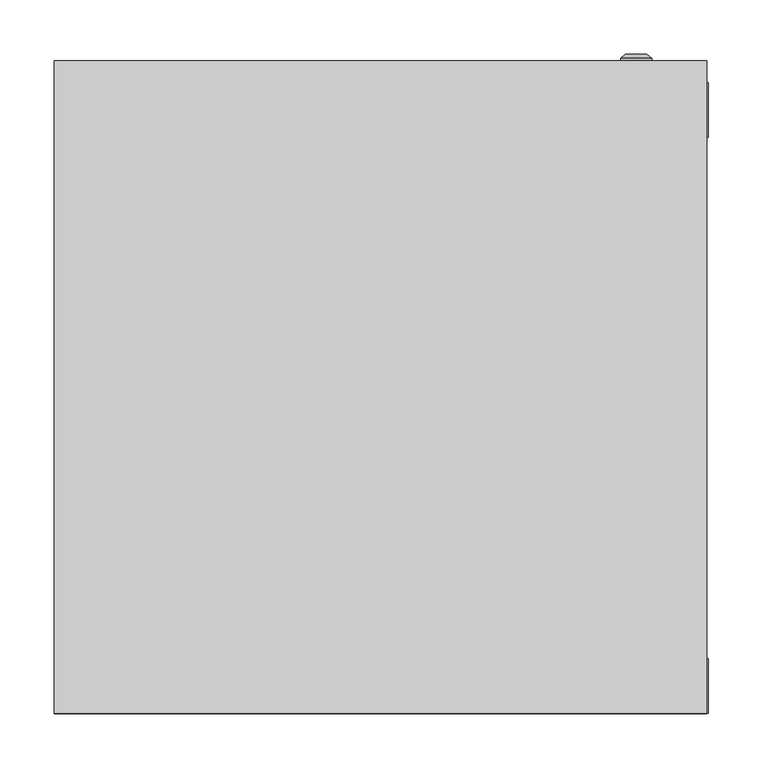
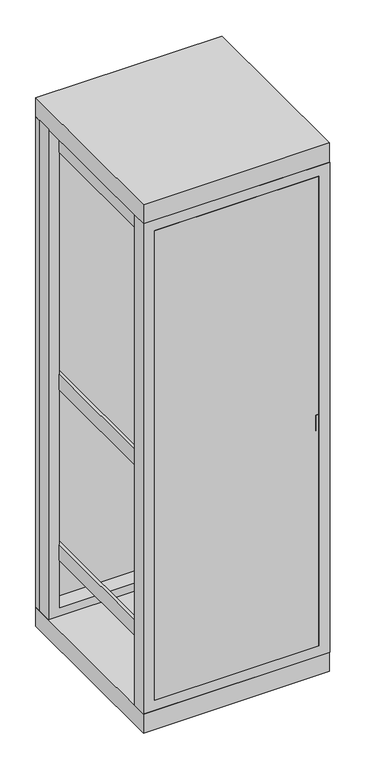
"""IFC4 building model written with IfcOpenShell, lengths in millimetres: proxy geometry, ВРУ-1 : ВРУ-1_1800х600х600."""

from ifc_helpers import new_model, si_unit, frame, origin, origin_with_axes, place, context, project, spatial, polyline, circle_curve, outline, extrude, source, transform, mapped, element, save
from ifc_brep_helpers import plane_surface, cylinder_surface, revolved_surface, advanced_brep


def electrical_equipment_cb070b25(model_context):
    return source(origin(), model_context, "Body", "SolidModel", [
        extrude(outline(polyline([(265.8707865, 0.0), (-263.3426966, 0.0), (-263.3426966, 10.0), (265.8707865, 10.0), (265.8707865, 0.0)])), frame((0.0, 0.0, 99.1378449), z_axis=(0.0, 0.0, 1.0), x_axis=(1.0, 0.0, 0.0)), (0.0, 0.0, 1.0), 1599.6160511),
        extrude(outline(polyline([(-255.8707865, 125.9831461), (-215.8707865, 125.9831461), (-215.8707865, 93.1179775), (-218.8707865, 93.1179775), (-218.8707865, 122.9831461), (-252.8707865, 122.9831461), (-252.8707865, 93.1179775), (-255.8707865, 93.1179775), (-255.8707865, 125.9831461)])), frame((0.0, 0.0, 189.6067416), z_axis=(0.0, 0.0, 1.0), x_axis=(1.0, 0.0, 0.0)), (0.0, 0.0, 1.0), 1545.3932584),
        extrude(outline(polyline([(215.8707865, 125.9831461), (255.8707865, 125.9831461), (255.8707865, 93.1179775), (252.8707865, 93.1179775), (252.8707865, 122.9831461), (218.8707865, 122.9831461), (218.8707865, 93.1179775), (215.8707865, 93.1179775), (215.8707865, 125.9831461)])), frame((0.0, 0.0, 189.6067416), z_axis=(0.0, 0.0, 1.0), x_axis=(1.0, 0.0, 0.0)), (0.0, 0.0, 1.0), 1545.3932584),
        extrude(outline(polyline([(-255.8707865, 10.0), (-265.8707865, 10.0), (-265.8707865, 580.0), (-255.8707865, 580.0), (-255.8707865, 10.0)])), frame((0.0, 0.0, 1645.5966059), z_axis=(0.0, 0.0, 1.0), x_axis=(1.0, 0.0, 0.0)), (0.0, 0.0, 1.0), 53.0898876),
        extrude(outline(polyline([(265.8707865, 10.0), (255.8707865, 10.0), (255.8707865, 580.0), (265.8707865, 580.0), (265.8707865, 10.0)])), frame((0.0, 0.0, 1645.5966059), z_axis=(0.0, 0.0, 1.0), x_axis=(1.0, 0.0, 0.0)), (0.0, 0.0, 1.0), 53.0898876),
        extrude(outline(polyline([(-255.8707865, 10.0), (-265.8707865, 10.0), (-265.8707865, 580.0), (-255.8707865, 580.0), (-255.8707865, 10.0)])), frame((0.0, 0.0, 255.5966059), z_axis=(0.0, 0.0, 1.0), x_axis=(1.0, 0.0, 0.0)), (0.0, 0.0, 1.0), 53.0898876),
        extrude(outline(polyline([(265.8707865, 10.0), (255.8707865, 10.0), (255.8707865, 580.0), (265.8707865, 580.0), (265.8707865, 10.0)])), frame((0.0, 0.0, 255.5966059), z_axis=(0.0, 0.0, 1.0), x_axis=(1.0, 0.0, 0.0)), (0.0, 0.0, 1.0), 53.0898876),
        extrude(outline(polyline([(-255.8707865, 10.0), (-265.8707865, 10.0), (-265.8707865, 580.0), (-255.8707865, 580.0), (-255.8707865, 10.0)])), frame((0.0, 0.0, 835.5966059), z_axis=(0.0, 0.0, 1.0), x_axis=(1.0, 0.0, 0.0)), (0.0, 0.0, 1.0), 53.0898876),
        extrude(outline(polyline([(265.8707865, 0.0), (255.8707865, 0.0), (255.8707865, 580.0), (265.8707865, 580.0), (265.8707865, 0.0)])), frame((0.0, 0.0, 835.5966059), z_axis=(0.0, 0.0, 1.0), x_axis=(1.0, 0.0, 0.0)), (0.0, 0.0, 1.0), 53.0898876),
        extrude(outline(polyline([(1734.1471543, -300.0), (65.0187804, -300.0), (65.0187804, 301.2640449), (1734.1471543, 301.2640449), (1734.1471543, -300.0)]), holes=[polyline([(99.1378449, 265.8707865), (99.1378449, -263.3426966), (1698.7538959, -263.3426966), (1698.7538959, 265.8707865), (99.1378449, 265.8707865)])]), frame((0.0, 0.0, 0.0), z_axis=(0.0, 1.0, 0.0), x_axis=(0.0, 0.0, 1.0)), (0.0, 0.0, 1.0), 50.0),
        extrude(outline(polyline([(1735.0, -300.0), (65.0187804, -300.0), (65.0187804, 301.2640449), (1735.0, 301.2640449), (1735.0, -300.0)]), holes=[polyline([(93.3701084, 265.8707865), (93.3701084, -263.3426966), (1692.9861595, -263.3426966), (1692.9861595, 265.8707865), (93.3701084, 265.8707865)])]), frame((0.0, 530.0, 0.0), z_axis=(0.0, 1.0, 0.0), x_axis=(0.0, 0.0, 1.0)), (0.0, 0.0, 1.0), 50.0),
        extrude(outline(polyline([(300.0067809, 600.0), (300.0067809, 0.0), (-300.0, 0.0), (-300.0, 600.0), (300.0067809, 600.0)])), frame((0.0, 0.0, 1735.0), z_axis=(0.0, 0.0, 1.0), x_axis=(1.0, 0.0, 0.0)), (0.0, 0.0, 1.0), 65.0),
        advanced_brep(
        [(220.669873, 600.0, 415.0), (249.330127, 600.0, 415.0), (235.0, 600.0, 415.0), (220.669873, 602.366592, 415.0), (249.330127, 602.366592, 415.0), (225.0, 606.0, 415.0), (245.0, 606.0, 415.0), (233.1080471, 606.0, 415.0), (236.8919529, 606.0, 415.0), (233.1080471, 604.9822294, 415.0), (236.8919529, 604.9822294, 415.0), (235.0, 604.9822294, 415.0)],
        [
            (0, 1, circle_curve(frame((235.0, 600.0, 415.0), z_axis=(0.0, -1.0, 0.0), x_axis=(1.0, 0.0, 0.0)), 14.330127)),
            (1, 2),
            (2, 0),
            (1, 0, circle_curve(frame((235.0, 600.0, 415.0), z_axis=(0.0, -1.0, 0.0), x_axis=(1.0, 0.0, 0.0)), 14.330127)),
            (3, 4, circle_curve(frame((235.0, 602.366592, 415.0), z_axis=(0.0, -1.0, 0.0), x_axis=(1.0, 0.0, 0.0)), 14.330127)),
            (4, 1),
            (0, 3),
            (4, 3, circle_curve(frame((235.0, 602.366592, 415.0), z_axis=(0.0, -1.0, 0.0), x_axis=(1.0, 0.0, 0.0)), 14.330127)),
            (5, 6, circle_curve(frame((235.0, 606.0, 415.0), z_axis=(0.0, -1.0, 0.0), x_axis=(1.0, 0.0, 0.0)), 10.0)),
            (6, 4),
            (3, 5),
            (6, 5, circle_curve(frame((235.0, 606.0, 415.0), z_axis=(0.0, -1.0, 0.0), x_axis=(1.0, 0.0, 0.0)), 10.0)),
            (7, 8, circle_curve(frame((235.0, 606.0, 415.0), z_axis=(0.0, -1.0, 0.0), x_axis=(1.0, 0.0, 0.0)), 1.8919529)),
            (8, 6),
            (5, 7),
            (8, 7, circle_curve(frame((235.0, 606.0, 415.0), z_axis=(0.0, -1.0, 0.0), x_axis=(1.0, 0.0, 0.0)), 1.8919529)),
            (9, 10, circle_curve(frame((235.0, 604.9822294, 415.0), z_axis=(0.0, -1.0, 0.0), x_axis=(1.0, 0.0, 0.0)), 1.8919529)),
            (10, 8),
            (7, 9),
            (10, 9, circle_curve(frame((235.0, 604.9822294, 415.0), z_axis=(0.0, -1.0, 0.0), x_axis=(1.0, 0.0, 0.0)), 1.8919529)),
            (11, 10),
            (9, 11),
        ],
        [
            plane_surface(frame((235.0, 600.0, 415.0), z_axis=(0.0, -1.0, 0.0), x_axis=(1.0, 0.0, 0.0))),
            cylinder_surface(frame((235.0, 613.1348851, 415.0), z_axis=(0.0, 1.0, 0.0), x_axis=(1.0, 0.0, 0.0)), 14.330127),
            revolved_surface(polyline([(249.330127, 602.366592, 415.0), (245.0, 606.0, 415.0)]), (235.0, 613.1348851, 415.0), (0.0, 1.0, 0.0)),
            plane_surface(frame((235.0, 606.0, 415.0), z_axis=(0.0, 1.0, 0.0), x_axis=(1.0, 0.0, 0.0))),
            revolved_surface(polyline([(236.8919529, 606.0, 415.0), (236.8919529, 604.9822294, 415.0)]), (235.0, 613.1348851, 415.0), (0.0, 1.0, 0.0)),
            plane_surface(frame((235.0, 604.9822294, 415.0), z_axis=(0.0, 1.0, 0.0), x_axis=(1.0, 0.0, 0.0))),
        ],
        [
            (0, [[1, 2, 3]]),
            (0, [[4, -3, -2]]),
            (1, [[5, 6, -1, 7]]),
            (1, [[8, -7, -4, -6]]),
            (2, [[9, 10, -5, 11]]),
            (2, [[12, -11, -8, -10]]),
            (3, [[13, 14, -9, 15]]),
            (3, [[16, -15, -12, -14]]),
            (4, [[17, 18, -13, 19]]),
            (4, [[20, -19, -16, -18]]),
            (5, [[21, -17, 22]]),
            (5, [[-22, -20, -21]]),
        ],
    ),
        advanced_brep(
        [(220.669873, 600.0, 1385.0), (249.330127, 600.0, 1385.0), (235.0, 600.0, 1385.0), (220.669873, 602.366592, 1385.0), (249.330127, 602.366592, 1385.0), (225.0, 606.0, 1385.0), (245.0, 606.0, 1385.0), (233.1080471, 606.0, 1385.0), (236.8919529, 606.0, 1385.0), (233.1080471, 604.9822294, 1385.0), (236.8919529, 604.9822294, 1385.0), (235.0, 604.9822294, 1385.0)],
        [
            (0, 1, circle_curve(frame((235.0, 600.0, 1385.0), z_axis=(0.0, -1.0, 0.0), x_axis=(1.0, 0.0, 0.0)), 14.330127)),
            (1, 2),
            (2, 0),
            (1, 0, circle_curve(frame((235.0, 600.0, 1385.0), z_axis=(0.0, -1.0, 0.0), x_axis=(1.0, 0.0, 0.0)), 14.330127)),
            (3, 4, circle_curve(frame((235.0, 602.366592, 1385.0), z_axis=(0.0, -1.0, 0.0), x_axis=(1.0, 0.0, 0.0)), 14.330127)),
            (4, 1),
            (0, 3),
            (4, 3, circle_curve(frame((235.0, 602.366592, 1385.0), z_axis=(0.0, -1.0, 0.0), x_axis=(1.0, 0.0, 0.0)), 14.330127)),
            (5, 6, circle_curve(frame((235.0, 606.0, 1385.0), z_axis=(0.0, -1.0, 0.0), x_axis=(1.0, 0.0, 0.0)), 10.0)),
            (6, 4),
            (3, 5),
            (6, 5, circle_curve(frame((235.0, 606.0, 1385.0), z_axis=(0.0, -1.0, 0.0), x_axis=(1.0, 0.0, 0.0)), 10.0)),
            (7, 8, circle_curve(frame((235.0, 606.0, 1385.0), z_axis=(0.0, -1.0, 0.0), x_axis=(1.0, 0.0, 0.0)), 1.8919529)),
            (8, 6),
            (5, 7),
            (8, 7, circle_curve(frame((235.0, 606.0, 1385.0), z_axis=(0.0, -1.0, 0.0), x_axis=(1.0, 0.0, 0.0)), 1.8919529)),
            (9, 10, circle_curve(frame((235.0, 604.9822294, 1385.0), z_axis=(0.0, -1.0, 0.0), x_axis=(1.0, 0.0, 0.0)), 1.8919529)),
            (10, 8),
            (7, 9),
            (10, 9, circle_curve(frame((235.0, 604.9822294, 1385.0), z_axis=(0.0, -1.0, 0.0), x_axis=(1.0, 0.0, 0.0)), 1.8919529)),
            (11, 10),
            (9, 11),
        ],
        [
            plane_surface(frame((235.0, 600.0, 1385.0), z_axis=(0.0, -1.0, 0.0), x_axis=(1.0, 0.0, 0.0))),
            cylinder_surface(frame((235.0, 613.1348851, 1385.0), z_axis=(0.0, 1.0, 0.0), x_axis=(1.0, 0.0, 0.0)), 14.330127),
            revolved_surface(polyline([(249.330127, 602.366592, 1385.0), (245.0, 606.0, 1385.0)]), (235.0, 613.1348851, 1385.0), (0.0, 1.0, 0.0)),
            plane_surface(frame((235.0, 606.0, 1385.0), z_axis=(0.0, 1.0, 0.0), x_axis=(1.0, 0.0, 0.0))),
            revolved_surface(polyline([(236.8919529, 606.0, 1385.0), (236.8919529, 604.9822294, 1385.0)]), (235.0, 613.1348851, 1385.0), (0.0, 1.0, 0.0)),
            plane_surface(frame((235.0, 604.9822294, 1385.0), z_axis=(0.0, 1.0, 0.0), x_axis=(1.0, 0.0, 0.0))),
        ],
        [
            (0, [[1, 2, 3]]),
            (0, [[4, -3, -2]]),
            (1, [[5, 6, -1, 7]]),
            (1, [[8, -7, -4, -6]]),
            (2, [[9, 10, -5, 11]]),
            (2, [[12, -11, -8, -10]]),
            (3, [[13, 14, -9, 15]]),
            (3, [[16, -15, -12, -14]]),
            (4, [[17, 18, -13, 19]]),
            (4, [[20, -19, -16, -18]]),
            (5, [[21, -17, 22]]),
            (5, [[-22, -20, -21]]),
        ],
    ),
        extrude(outline(polyline([(300.0067809, 600.0), (300.0067809, 0.0), (-300.0, 0.0), (-300.0, 600.0), (300.0067809, 600.0)])), origin_with_axes(), (0.0, 0.0, 1.0), 65.0187804),
        extrude(outline(polyline([(300.0, 580.0), (-300.0, 580.0), (-300.0, 600.0), (300.0, 600.0), (300.0, 580.0)])), frame((0.0, 0.0, 65.0187804), z_axis=(0.0, 0.0, 1.0), x_axis=(1.0, 0.0, 0.0)), (0.0, 0.0, 1.0), 1669.9812196),
    ])


if __name__ == "__main__":
    model = new_model("IFC4")
    model_context = context("Model", 3, world=origin())
    ifc_project = project(units=[si_unit("LENGTHUNIT", "METRE", prefix="MILLI")], contexts=[model_context])
    site = spatial("IfcSite", under=ifc_project)
    building = spatial("IfcBuilding", under=site)
    placement = place(None, origin())
    electrical_equipment_shape = electrical_equipment_cb070b25(model_context)
    element("IfcBuildingElementProxy", 1, Name="ВРУ-1 : ВРУ-1_1800х600х600", ObjectType="ВРУ-1 : ВРУ-1_1800х600х600", at=placement, inside=building, context=model_context, shape_type="MappedRepresentation", body=[
        mapped(electrical_equipment_shape, transform((0.0, 0.0, 0.0), x_axis=(1.0, 0.0, 0.0), y_axis=(0.0, 1.0, 0.0), z_axis=(0.0, 0.0, 1.0))),
    ])
    save(model, "model.ifc")
